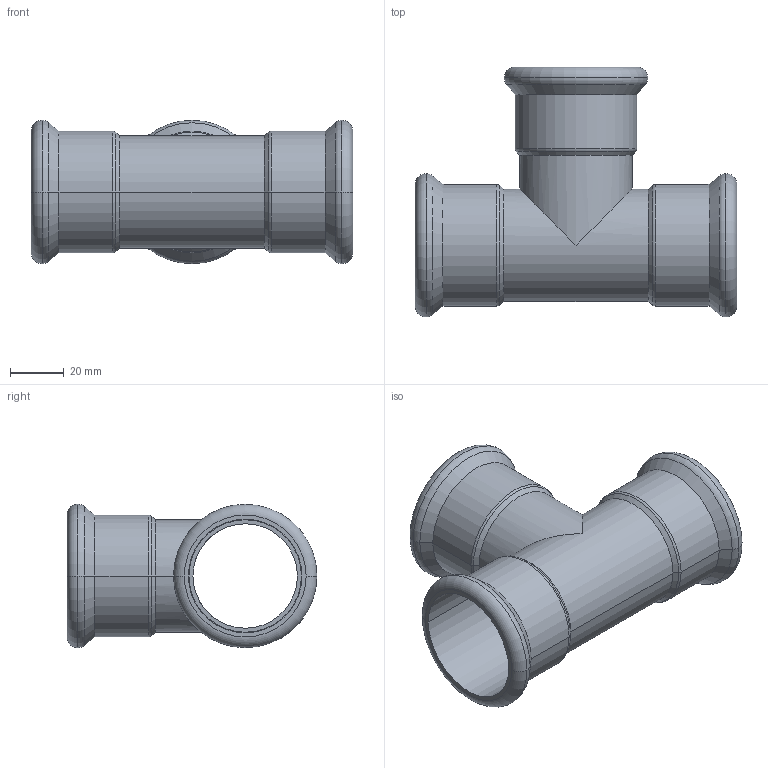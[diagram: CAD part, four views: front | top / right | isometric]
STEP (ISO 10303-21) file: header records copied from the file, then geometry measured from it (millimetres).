
FILE_DESCRIPTION(('CoCreate Modeling STEP Export'),'2;1');
FILE_NAME('C1414 42x42x42.stp','2014-11-11T16:57:26',(''),(''),'CoCreate Modeling STEP processor for AP214 (Solid Model)','CoCreate Modeling 17.00A 17-Jun-2010 (C) Parametric Technology GmbH','');
FILE_SCHEMA(('AUTOMOTIVE_DESIGN { 1 0 10303 214 1 1 1 1 }'));
Length unit declared in the file: millimetre
Products named in the file (2): C1414_42x42x42
Assembly tree (1 placements, depth 2):
  C1414_42x42x42
    C1414_42x42x42
Bounding box: 120 x 93.28 x 53.55 mm (x, y, z)
Volume: 46536.9 mm3; surface area: 47022.9 mm2
Topology: 1 solids, 1 shells, 65 faces, 141 edges, 83 vertices
Faces by surface type: cylinder 26, torus 18, cone 12, plane 9
Entity records: 1467 total; most frequent: ORIENTED_EDGE 282, DIRECTION 226, CARTESIAN_POINT 215, EDGE_CURVE 141, AXIS2_PLACEMENT_3D 94, VERTEX_POINT 83, EDGE_LOOP 74, FACE_OUTER_BOUND 65
